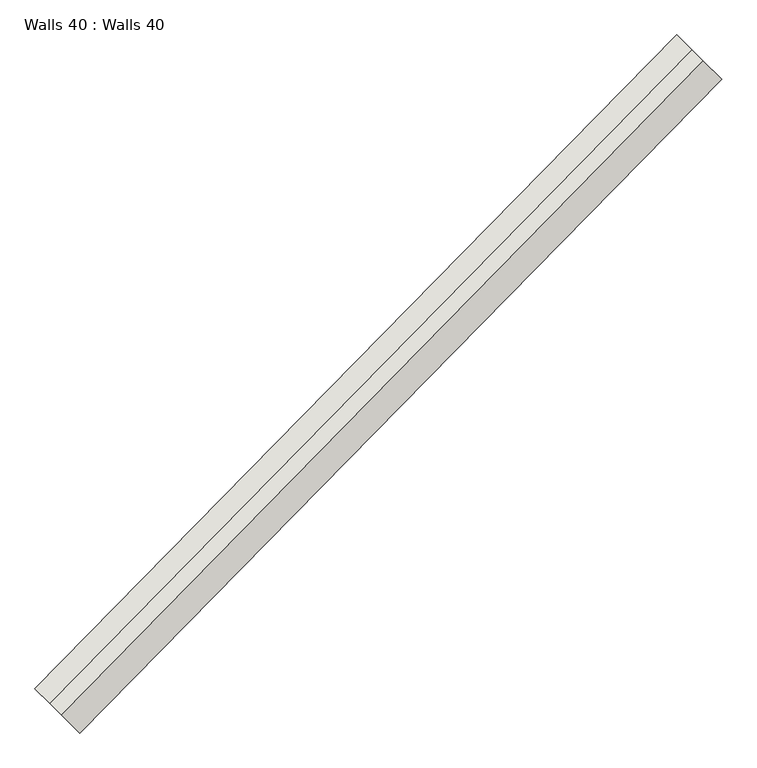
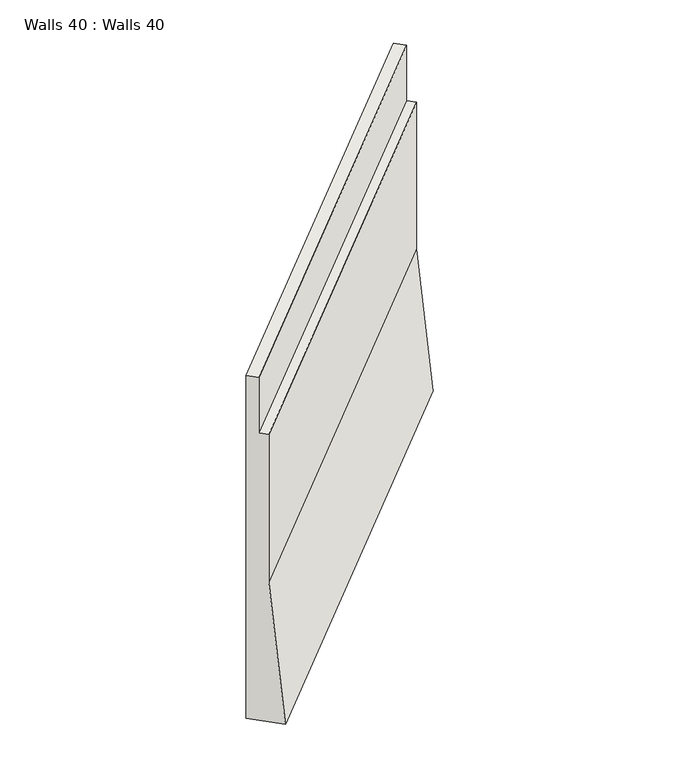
"""IFC4 building model written with IfcOpenShell, lengths in millimetres: wall geometry, Walls 40 : Walls 40."""

from ifc_helpers import new_model, si_unit, origin, place, context, project, spatial, faceted_brep, source, transform, mapped, element, save


def walls_40_walls_40_30719bed(model_context):
    return source(origin(), model_context, "Body", "Brep", [
        faceted_brep([(-147766.9261193, -306781.4131903, 636670.0), (-147945.3619552, -306606.3077659, 639170.0), (-147945.3619552, -306606.3077659, 641830.0), (-148052.4221458, -306501.2457978, 641830.0), (-148052.4221458, -306501.2457978, 642830.0), (-148195.1690665, -306361.1631737, 642830.0), (-148195.1690665, -306361.1631737, 636670.0), (-141673.3847334, -300571.8436899, 636760.0), (-142101.6276807, -300151.5936733, 636760.0), (-142101.6276807, -300151.5936733, 642900.0), (-141958.8807599, -300291.6762974, 642900.0), (-141958.8807599, -300291.6762974, 641900.0), (-141851.8205694, -300396.7382655, 641900.0), (-141851.8205694, -300396.7382655, 639260.0)], [[[0, 1, 2, 3, 4, 5, 6]], [[7, 8, 9, 10, 11, 12, 13]], [[7, 13, 1, 0]], [[13, 12, 2, 1]], [[12, 11, 3, 2]], [[11, 10, 4, 3]], [[10, 9, 5, 4]], [[9, 8, 6, 5]], [[8, 7, 0, 6]]]),
    ])


if __name__ == "__main__":
    model = new_model("IFC4")
    model_context = context("Model", 3, world=origin())
    ifc_project = project(units=[si_unit("LENGTHUNIT", "METRE", prefix="MILLI")], contexts=[model_context])
    site = spatial("IfcSite", under=ifc_project)
    building = spatial("IfcBuilding", under=site)
    placement = place(None, origin())
    walls_40_walls_40_shape = walls_40_walls_40_30719bed(model_context)
    element("IfcWall", 1, ObjectType="Walls 40 : Walls 40", at=placement, inside=building, context=model_context, shape_type="MappedRepresentation", body=[
        mapped(walls_40_walls_40_shape, transform((0.0, 0.0, 0.0), x_axis=(1.0, 0.0, 0.0), y_axis=(0.0, 1.0, 0.0), z_axis=(0.0, 0.0, 1.0))),
    ])
    save(model, "model.ifc")
